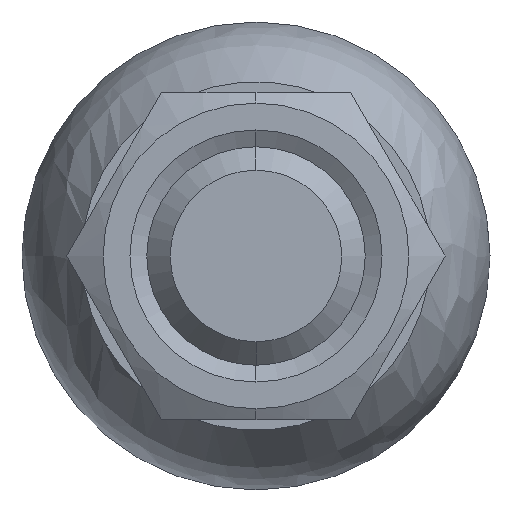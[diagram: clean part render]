
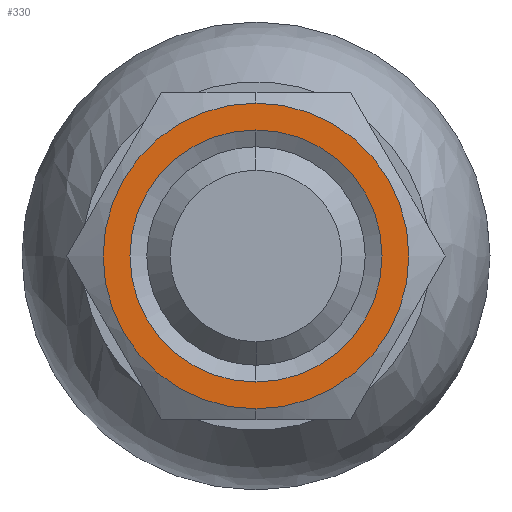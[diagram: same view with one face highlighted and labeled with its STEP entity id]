
A CAD part, left-side view. The second image highlights one B-rep face of the part: STEP entity #330.
In plain terms, the highlighted planar face has unit normal (-1, 0, 0).
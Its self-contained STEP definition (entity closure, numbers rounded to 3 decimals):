
#117 = AXIS2_PLACEMENT_3D ( 'NONE', #2812, #3063, #416 ) ;
#146 = VERTEX_POINT ( 'NONE', #424 ) ;
#188 = CARTESIAN_POINT ( 'NONE',  ( -89.293, 0., 0. ) ) ;
#196 = EDGE_CURVE ( 'NONE', #2928, #375, #1618, .T. ) ;
#211 = PLANE ( 'NONE',  #2024 ) ;
#256 = EDGE_CURVE ( 'NONE', #146, #415, #2921, .T. ) ;
#330 = ADVANCED_FACE ( 'NONE', ( #670, #1293 ), #211, .F. ) ;
#340 = EDGE_CURVE ( 'NONE', #375, #2928, #1501, .T. ) ;
#351 = EDGE_CURVE ( 'NONE', #415, #146, #3040, .T. ) ;
#375 = VERTEX_POINT ( 'NONE', #1274 ) ;
#415 = VERTEX_POINT ( 'NONE', #2347 ) ;
#416 = DIRECTION ( 'NONE',  ( 0., 0., -1. ) ) ;
#424 = CARTESIAN_POINT ( 'NONE',  ( -89.293, 0., -9.8 ) ) ;
#449 = DIRECTION ( 'NONE',  ( 0., 0., -1. ) ) ;
#539 = EDGE_LOOP ( 'NONE', ( #1807, #2591 ) ) ;
#670 = FACE_BOUND ( 'NONE', #539, .T. ) ;
#719 = DIRECTION ( 'NONE',  ( 0., 0., -1. ) ) ;
#726 = CARTESIAN_POINT ( 'NONE',  ( -89.293, 0., 0. ) ) ;
#731 = DIRECTION ( 'NONE',  ( 0., 0., 1. ) ) ;
#741 = DIRECTION ( 'NONE',  ( -1., 0., 0. ) ) ;
#1121 = ORIENTED_EDGE ( 'NONE', *, *, #351, .F. ) ;
#1212 = ORIENTED_EDGE ( 'NONE', *, *, #256, .F. ) ;
#1274 = CARTESIAN_POINT ( 'NONE',  ( -89.293, 0., -8.083 ) ) ;
#1292 = DIRECTION ( 'NONE',  ( -1., 0., 0. ) ) ;
#1293 = FACE_OUTER_BOUND ( 'NONE', #1699, .T. ) ;
#1501 = CIRCLE ( 'NONE', #3023, 8.083 ) ;
#1618 = CIRCLE ( 'NONE', #3091, 8.083 ) ;
#1699 = EDGE_LOOP ( 'NONE', ( #1212, #1121 ) ) ;
#1807 = ORIENTED_EDGE ( 'NONE', *, *, #196, .F. ) ;
#2024 = AXIS2_PLACEMENT_3D ( 'NONE', #188, #2566, #449 ) ;
#2025 = CARTESIAN_POINT ( 'NONE',  ( -89.293, 0., 8.083 ) ) ;
#2305 = CARTESIAN_POINT ( 'NONE',  ( -89.293, 0., 0. ) ) ;
#2323 = DIRECTION ( 'NONE',  ( 0., 0., 1. ) ) ;
#2347 = CARTESIAN_POINT ( 'NONE',  ( -89.293, 0., 9.8 ) ) ;
#2559 = AXIS2_PLACEMENT_3D ( 'NONE', #2305, #3075, #719 ) ;
#2566 = DIRECTION ( 'NONE',  ( 1., 0., 0. ) ) ;
#2591 = ORIENTED_EDGE ( 'NONE', *, *, #340, .F. ) ;
#2812 = CARTESIAN_POINT ( 'NONE',  ( -89.293, 0., 0. ) ) ;
#2921 = CIRCLE ( 'NONE', #117, 9.8 ) ;
#2928 = VERTEX_POINT ( 'NONE', #2025 ) ;
#3023 = AXIS2_PLACEMENT_3D ( 'NONE', #3329, #741, #731 ) ;
#3040 = CIRCLE ( 'NONE', #2559, 9.8 ) ;
#3063 = DIRECTION ( 'NONE',  ( 1., 0., 0. ) ) ;
#3075 = DIRECTION ( 'NONE',  ( 1., 0., 0. ) ) ;
#3091 = AXIS2_PLACEMENT_3D ( 'NONE', #726, #1292, #2323 ) ;
#3329 = CARTESIAN_POINT ( 'NONE',  ( -89.293, 0., 0. ) ) ;
